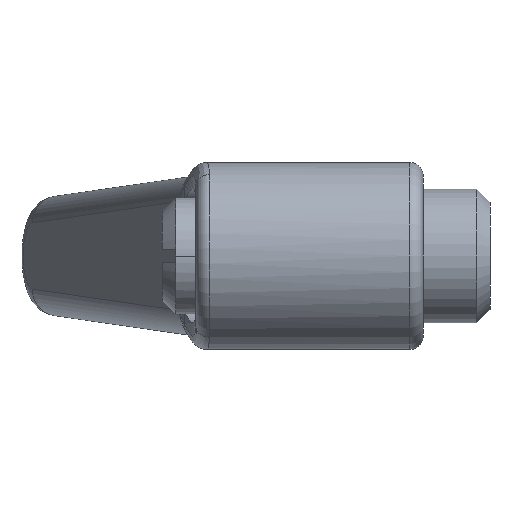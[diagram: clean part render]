
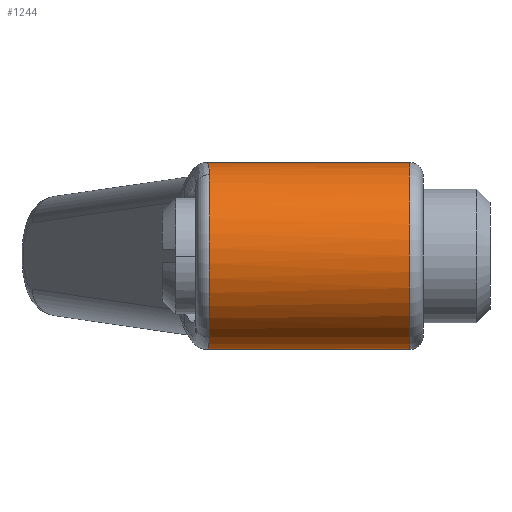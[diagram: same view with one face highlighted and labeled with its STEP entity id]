
A CAD part, left-side view. The second image highlights one B-rep face of the part: STEP entity #1244.
In plain terms, the highlighted cylindrical face has radius 7 mm (diameter 14 mm), a partial arc.
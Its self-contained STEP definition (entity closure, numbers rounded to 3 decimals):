
#23 = CARTESIAN_POINT ( 'NONE',  ( 0., 17., 0. ) ) ;
#39 = CARTESIAN_POINT ( 'NONE',  ( 0., -0.789, -7. ) ) ;
#71 = CARTESIAN_POINT ( 'NONE',  ( -3.461, -1., -6.084 ) ) ;
#90 = CIRCLE ( 'NONE', #1826, 7. ) ;
#151 = CARTESIAN_POINT ( 'NONE',  ( -3.461, -1., 6.084 ) ) ;
#169 = CARTESIAN_POINT ( 'NONE',  ( -2.362, -0.98, 6.596 ) ) ;
#186 = DIRECTION ( 'NONE',  ( 0., -1., 0. ) ) ;
#199 = CARTESIAN_POINT ( 'NONE',  ( -2.077, -0.968, 6.691 ) ) ;
#301 = CARTESIAN_POINT ( 'NONE',  ( -2.921, -0.996, 6.368 ) ) ;
#302 = AXIS2_PLACEMENT_3D ( 'NONE', #537, #528, #511 ) ;
#336 = EDGE_CURVE ( 'NONE', #2203, #1908, #90, .T. ) ;
#395 = DIRECTION ( 'NONE',  ( 0., -1., 0. ) ) ;
#430 = FACE_OUTER_BOUND ( 'NONE', #959, .T. ) ;
#448 = CARTESIAN_POINT ( 'NONE',  ( 0., -16., -7. ) ) ;
#454 = EDGE_CURVE ( 'NONE', #1372, #1939, #1288, .T. ) ;
#511 = DIRECTION ( 'NONE',  ( 0., 0., 1. ) ) ;
#528 = DIRECTION ( 'NONE',  ( 0., 1., 0. ) ) ;
#537 = CARTESIAN_POINT ( 'NONE',  ( 0., -16., 0. ) ) ;
#704 = LINE ( 'NONE', #1259, #1697 ) ;
#718 = CARTESIAN_POINT ( 'NONE',  ( -2.373, -0.985, -6.613 ) ) ;
#800 = CARTESIAN_POINT ( 'NONE',  ( 0., -16., 7. ) ) ;
#801 = ORIENTED_EDGE ( 'NONE', *, *, #336, .T. ) ;
#841 = CARTESIAN_POINT ( 'NONE',  ( -1.206, -0.917, 6.921 ) ) ;
#847 = CARTESIAN_POINT ( 'NONE',  ( 0., -0.789, 7. ) ) ;
#959 = EDGE_LOOP ( 'NONE', ( #980, #2047, #801, #1261, #1158, #2191 ) ) ;
#980 = ORIENTED_EDGE ( 'NONE', *, *, #2297, .F. ) ;
#1115 = CARTESIAN_POINT ( 'NONE',  ( -3.196, -1., 6.235 ) ) ;
#1158 = ORIENTED_EDGE ( 'NONE', *, *, #2326, .T. ) ;
#1165 = CARTESIAN_POINT ( 'NONE',  ( -3.461, -1., -6.084 ) ) ;
#1181 = VERTEX_POINT ( 'NONE', #39 ) ;
#1244 = ADVANCED_FACE ( 'NONE', ( #430 ), #2313, .T. ) ;
#1259 = CARTESIAN_POINT ( 'NONE',  ( 0., 17., -7. ) ) ;
#1261 = ORIENTED_EDGE ( 'NONE', *, *, #2219, .T. ) ;
#1288 = CIRCLE ( 'NONE', #302, 7. ) ;
#1295 = CARTESIAN_POINT ( 'NONE',  ( -0.299, -0.826, -7. ) ) ;
#1304 = CARTESIAN_POINT ( 'NONE',  ( 0., -0.789, 7. ) ) ;
#1314 = CARTESIAN_POINT ( 'NONE',  ( -1.497, -0.934, -6.845 ) ) ;
#1348 = DIRECTION ( 'NONE',  ( 0., 0., -1. ) ) ;
#1351 = DIRECTION ( 'NONE',  ( 0., -1., 0. ) ) ;
#1356 = CARTESIAN_POINT ( 'NONE',  ( 0., -1., 0. ) ) ;
#1372 = VERTEX_POINT ( 'NONE', #448 ) ;
#1391 = VECTOR ( 'NONE', #1582, 1000. ) ;
#1395 = CARTESIAN_POINT ( 'NONE',  ( 0., 17., 7. ) ) ;
#1418 = CARTESIAN_POINT ( 'NONE',  ( -1.196, -0.912, -6.904 ) ) ;
#1582 = DIRECTION ( 'NONE',  ( 0., -1., 0. ) ) ;
#1607 = DIRECTION ( 'NONE',  ( 0., 0., -1. ) ) ;
#1697 = VECTOR ( 'NONE', #395, 1000. ) ;
#1704 = AXIS2_PLACEMENT_3D ( 'NONE', #23, #186, #1607 ) ;
#1756 = B_SPLINE_CURVE_WITH_KNOTS ( 'NONE', 3,
 ( #1304, #1771, #841, #199, #169, #301, #1115, #151 ),
 .UNSPECIFIED., .F., .F.,
 ( 4, 2, 2, 4 ),
 ( 0.004, 0.006, 0.007, 0.007 ),
 .UNSPECIFIED. ) ;
#1771 = CARTESIAN_POINT ( 'NONE',  ( -0.597, -0.862, 7. ) ) ;
#1826 = AXIS2_PLACEMENT_3D ( 'NONE', #1356, #1351, #1348 ) ;
#1908 = VERTEX_POINT ( 'NONE', #71 ) ;
#1932 = CARTESIAN_POINT ( 'NONE',  ( -2.931, -1., -6.386 ) ) ;
#1939 = VERTEX_POINT ( 'NONE', #800 ) ;
#2028 = EDGE_CURVE ( 'NONE', #2300, #2203, #1756, .T. ) ;
#2031 = LINE ( 'NONE', #1395, #1391 ) ;
#2047 = ORIENTED_EDGE ( 'NONE', *, *, #2028, .T. ) ;
#2055 = CARTESIAN_POINT ( 'NONE',  ( -0.598, -0.858, -6.981 ) ) ;
#2100 = CARTESIAN_POINT ( 'NONE',  ( -3.461, -1., 6.084 ) ) ;
#2191 = ORIENTED_EDGE ( 'NONE', *, *, #454, .T. ) ;
#2203 = VERTEX_POINT ( 'NONE', #2100 ) ;
#2219 = EDGE_CURVE ( 'NONE', #1908, #1181, #2225, .T. ) ;
#2225 = B_SPLINE_CURVE_WITH_KNOTS ( 'NONE', 3,
 ( #1165, #1932, #718, #1314, #1418, #2055, #1295, #2277 ),
 .UNSPECIFIED., .F., .F.,
 ( 4, 2, 2, 4 ),
 ( 0., 0.002, 0.003, 0.004 ),
 .UNSPECIFIED. ) ;
#2277 = CARTESIAN_POINT ( 'NONE',  ( 0., -0.789, -7. ) ) ;
#2297 = EDGE_CURVE ( 'NONE', #2300, #1939, #2031, .T. ) ;
#2300 = VERTEX_POINT ( 'NONE', #847 ) ;
#2313 = CYLINDRICAL_SURFACE ( 'NONE', #1704, 7. ) ;
#2326 = EDGE_CURVE ( 'NONE', #1181, #1372, #704, .T. ) ;
